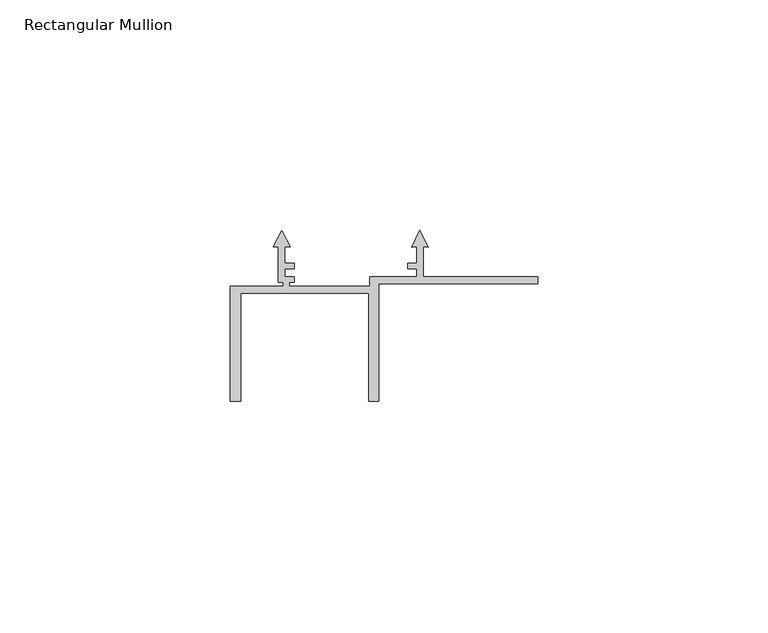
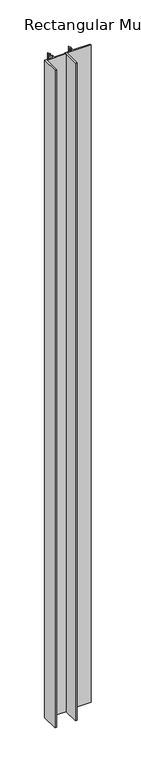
"""IFC4 building model written with IfcOpenShell, lengths in millimetres: member geometry, Rectangular Mullion : Renson_Linarte_LA-E25-01."""

from ifc_helpers import new_model, si_unit, frame, origin, place, context, project, spatial, polyline, outline, extrude, source, transform, mapped, element, save


def rectangular_mullion_e9b3b9de(model_context):
    return source(origin(), model_context, "Body", "SweptSolid", [
        extrude(outline(polyline([(66.6, -36.1000494), (32.2, -36.1000494), (32.2, -61.6000494), (30.0, -61.6000494), (30.0, -38.1000494), (2.2, -38.1000494), (2.2, -61.6000494), (0.0, -61.6000494), (0.0, -36.6000494), (11.4, -36.6000494), (11.4, -35.8015754), (10.3999985, -35.8015754), (10.3999985, -28.0038712), (9.284262, -28.1014855), (11.0999986, -24.537898), (12.9157351, -28.1014855), (11.7999987, -28.0038712), (11.7999987, -31.5979618), (13.7875618, -31.5979618), (13.7875618, -32.8000494), (11.8091794, -32.8000494), (11.8091794, -34.6000494), (13.7880766, -34.6000494), (13.7880766, -35.8015754), (12.8, -35.8015754), (12.8, -36.6000494), (30.1732051, -36.6000494), (30.1732051, -34.6000494), (40.3999995, -34.6000494), (40.3999995, -32.8000494), (38.4077357, -32.8000494), (38.4077357, -31.599221), (40.3999998, -31.599221), (40.3999998, -28.0071867), (39.2744672, -28.1056581), (41.0999986, -24.5228474), (42.9255299, -28.1056578), (41.8, -28.0071867), (41.8, -34.6000494), (66.6, -34.6000494), (66.6, -36.1000494)])), frame((0.0, 0.0, -1000.0), z_axis=(0.0, 0.0, 1.0), x_axis=(1.0, 0.0, 0.0)), (0.0, 0.0, 1.0), 1000.0),
    ])


if __name__ == "__main__":
    model = new_model("IFC4")
    model_context = context("Model", 3, world=origin())
    ifc_project = project(units=[si_unit("LENGTHUNIT", "METRE", prefix="MILLI")], contexts=[model_context])
    site = spatial("IfcSite", under=ifc_project)
    building = spatial("IfcBuilding", under=site)
    placement = place(None, origin())
    rectangular_mullion_shape = rectangular_mullion_e9b3b9de(model_context)
    element("IfcMember", 1, ObjectType="Rectangular Mullion : Renson_Linarte_LA-E25-01", at=placement, inside=building, context=model_context, shape_type="MappedRepresentation", body=[
        mapped(rectangular_mullion_shape, transform((0.0, 0.0, 0.0), x_axis=(1.0, 0.0, 0.0), y_axis=(0.0, 1.0, 0.0), z_axis=(0.0, 0.0, 1.0))),
    ])
    save(model, "model.ifc")
